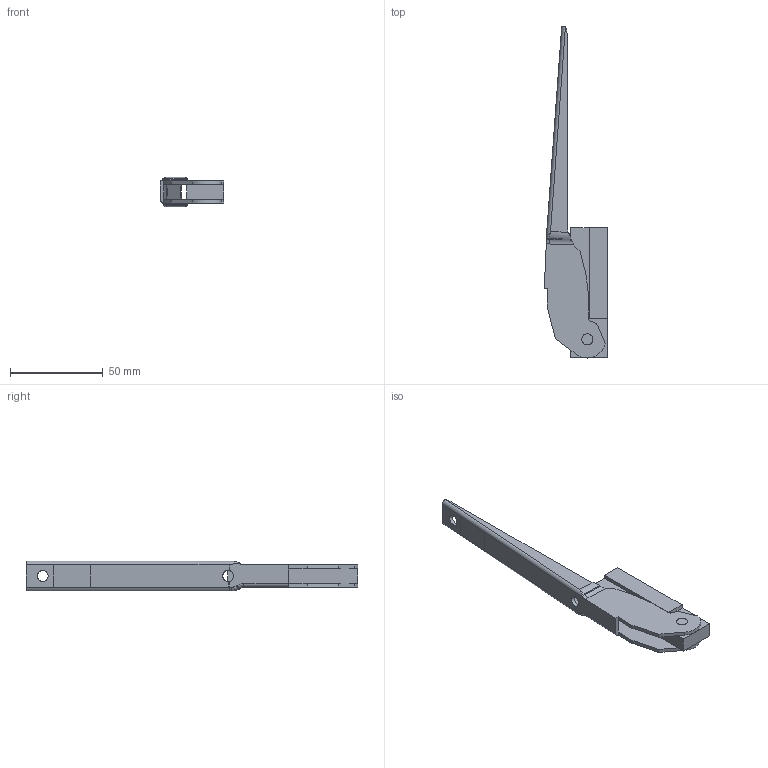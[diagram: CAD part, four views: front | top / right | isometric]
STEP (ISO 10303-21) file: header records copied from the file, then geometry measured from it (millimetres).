
FILE_DESCRIPTION(('CATIA V5 STEP Exchange'),'2;1');
FILE_NAME('G:\Pince Molly Internet\Comportement des Systèmes Techniques\TP1\Maquette numérique\Catia Etude RDM\STEP\Méca-01.stp','2009-12-08T08:45:55+00:00',('none'),('none'),'CATIA Version 5 Release 16 (IN-10)','CATIA V5 STEP AP203','none');
FILE_SCHEMA(('CONFIG_CONTROL_DESIGN'));
Length unit declared in the file: millimetre
Products named in the file (1): Meca-01
Assembly tree (2 placements, depth 2):
  Meca-01
    #56
    #546
Bounding box: 34.19 x 178.64 x 16 mm (x, y, z)
Volume: 24567.9 mm3; surface area: 17286.6 mm2
Topology: 2 solids, 2 shells, 97 faces, 265 edges, 171 vertices
Faces by surface type: plane 54, cylinder 40, bspline 2, sphere 1
Entity records: 3138 total; most frequent: CARTESIAN_POINT 787, ORIENTED_EDGE 528, DIRECTION 369, EDGE_CURVE 264, VECTOR 174, LINE 174, VERTEX_POINT 171, AXIS2_PLACEMENT_3D 129
